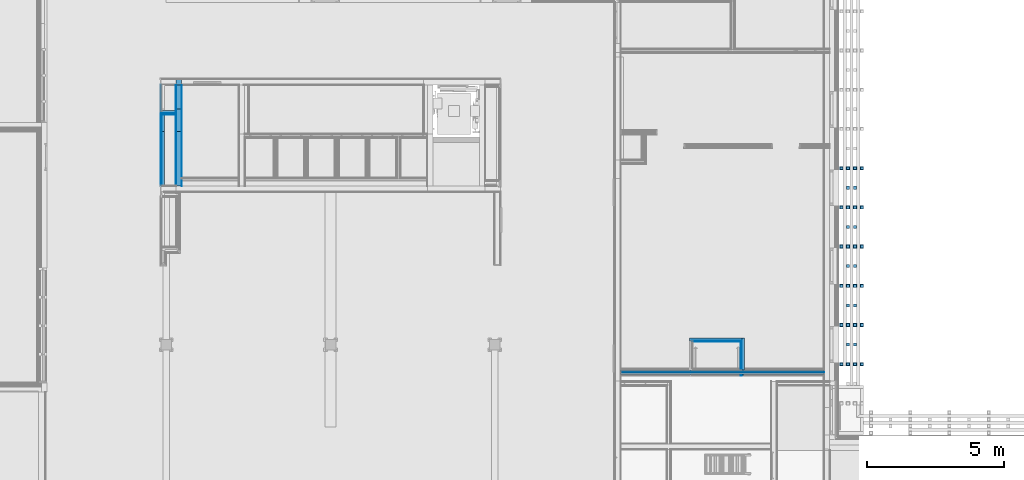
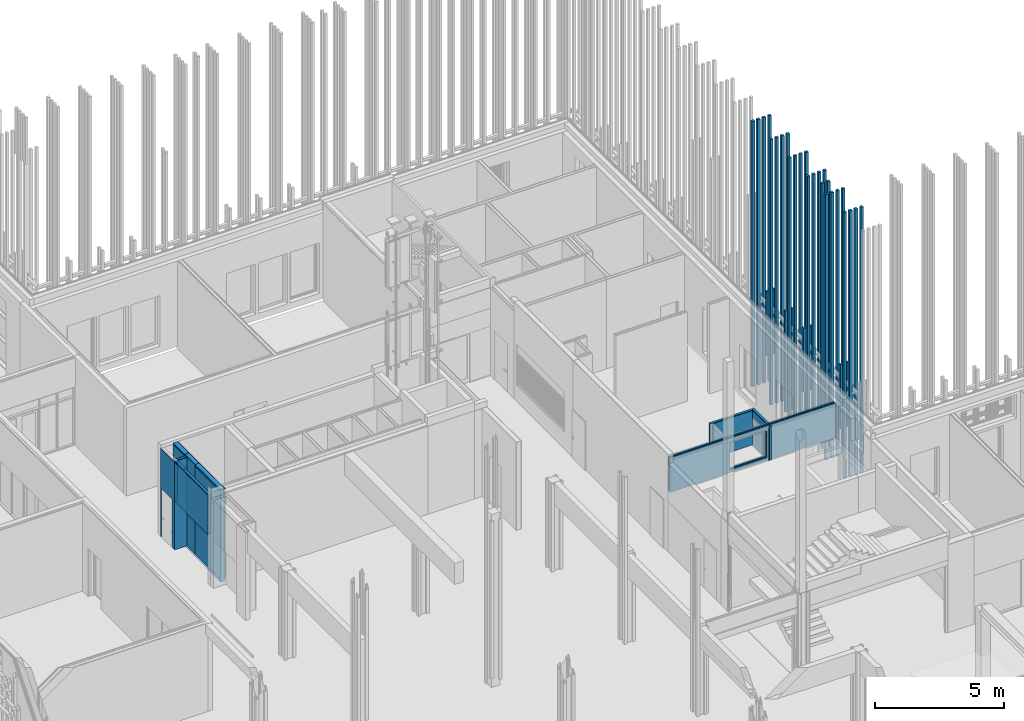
# One storey, part 181 of 260: 29 building element parts, 11 discrete accessories, 2 openings, 9 elements without a shape of their own.
"""IFC2X3 building model written with IfcOpenShell, lengths in millimetres."""

from ifc_helpers import new_model, entity, si_unit, converted_unit, derived_unit, money_unit, direction, frame, origin_with_axes, place, context, subcontext, project, spatial, faceted_brep, material, material_list, type_object, element, aggregate, save


model = new_model("IFC2X3")

# Units and contexts
model_context = context("Model", 3, precision=0.01, world=origin_with_axes(), true_north=direction((0.0, 1.0)))
body_context = subcontext(model_context, "Body", "Model", "MODEL_VIEW")
ifc_project = project(units=[si_unit("LENGTHUNIT", "METRE", prefix="MILLI"), si_unit("AREAUNIT", "SQUARE_METRE"), si_unit("VOLUMEUNIT", "CUBIC_METRE"), converted_unit("PLANEANGLEUNIT", "DEGREE", entity("IfcPlaneAngleMeasure", 0.0174532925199), si_unit("PLANEANGLEUNIT", "RADIAN"), dimensions=[0, 0, 0, 0, 0, 0, 0]), money_unit("EUR"), converted_unit("TIMEUNIT", "Year", entity("IfcTimeMeasure", 31556926.0), si_unit("TIMEUNIT", "SECOND"), dimensions=[0, 0, 1, 0, 0, 0, 0]), si_unit("MASSUNIT", "GRAM", prefix="KILO"), si_unit("THERMODYNAMICTEMPERATUREUNIT", "DEGREE_CELSIUS"), si_unit("LUMINOUSINTENSITYUNIT", "LUMEN"), si_unit("ENERGYUNIT", "JOULE", prefix="MEGA"), derived_unit("THERMALCONDUCTANCEUNIT", [(si_unit("POWERUNIT", "WATT"), 1), (si_unit("LENGTHUNIT", "METRE"), -1), (si_unit("THERMODYNAMICTEMPERATUREUNIT", "KELVIN"), -1)]), derived_unit("SPECIFICHEATCAPACITYUNIT", [(si_unit("ENERGYUNIT", "JOULE"), 1), (si_unit("MASSUNIT", "GRAM", prefix="KILO"), -1), (si_unit("THERMODYNAMICTEMPERATUREUNIT", "KELVIN"), -1)]), derived_unit("MASSDENSITYUNIT", [(si_unit("MASSUNIT", "GRAM", prefix="KILO"), 1), (si_unit("VOLUMEUNIT", "CUBIC_METRE"), -1)])], contexts=[model_context])

# Site, building, storey
site_placement = place(None, origin_with_axes())
site = spatial("IfcSite", under=ifc_project, at=site_placement, Name="Kolde pst 67a", CompositionType="ELEMENT")
building_placement = place(site_placement, origin_with_axes())
building = spatial("IfcBuilding", under=site, at=building_placement, Name="Riigigümnaasium", CompositionType="ELEMENT")
storey_placement = place(building_placement, origin_with_axes())
storey = spatial("IfcBuildingStorey", under=building, at=storey_placement, Name="1. korrus", CompositionType="ELEMENT", Elevation=0.0)

# Discrete accessories
ifc_material_1 = material(Name="_VÄLISVIIMISTLUS - sõrmjätkatud puitprussid 120x115mm, liitekohad vähemärgatavad, Platowood sõrmjätkatud kuusk või samaväärne; eeltöödeldud tuletõkkevõõbaga, tuletundlikkus B-s1, d0, Woodsafe Exterior WFX™ või samaväärne; kinnitused vastavalt EK osale")
ifc_material_list_1 = material_list([ifc_material_1, ifc_material_1, ifc_material_1, ifc_material_1])
discrete_accessory_type_1 = type_object("IfcDiscreteAccessoryType", Name="120 4-ne vertikaalne 870 x 115")
for number, where, z_axis, x_axis in (
    (1, (60791.9943499, 46517.4998416, 280.0), (0.0, 0.0, 1.0), (-0.999999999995, -3.13999128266e-06, 0.0)),
    (2, (60791.9943499, 45087.4998416, 280.0), (0.0, 0.0, 1.0), (-0.999999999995, -3.13999128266e-06, 0.0)),
    (3, (60791.9943499, 43657.4998416, 280.0), (0.0, 0.0, 1.0), (-0.999999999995, -3.13999128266e-06, 0.0)),
    (4, (60791.9943499, 42227.4998416, 280.0), (0.0, 0.0, 1.0), (-0.999999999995, -3.13999128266e-06, 0.0)),
    (5, (60791.9943499, 40797.4998416, 280.0), (0.0, 0.0, 1.0), (-0.999999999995, -3.13999128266e-06, 0.0)),
    (6, (60791.9943499, 39367.4998416, 280.0), (0.0, 0.0, 1.0), (-0.999999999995, -3.13999128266e-06, 0.0)),
):
    element("IfcDiscreteAccessory", number, at=place(storey_placement, frame(where, z_axis=z_axis, x_axis=x_axis)), inside=storey, type_object=discrete_accessory_type_1, material=ifc_material_list_1, Name="Päikesevarjestus", context=body_context, shape_type="Brep", body=[
        faceted_brep([(-133.0, -70.0, 0.0), (-13.0, -70.0, 0.0), (-13.0, -70.0, 12600.0), (-133.0, -70.0, 12600.0), (-133.0, 45.0, 0.0), (-13.0, 45.0, 0.0), (-13.0, 45.0, 12600.0), (-133.0, 45.0, 12600.0)], [[[0, 1, 2, 3]], [[0, 4, 5, 1]], [[1, 5, 6, 2]], [[3, 2, 6, 7]], [[4, 0, 3, 7]], [[5, 4, 7, 6]]]),
        faceted_brep([(-383.0, -70.0, 0.0), (-263.0, -70.0, 0.0), (-263.0, -70.0, 12600.0), (-383.0, -70.0, 12600.0), (-383.0, 45.0, 0.0), (-263.0, 45.0, 0.0), (-263.0, 45.0, 12600.0), (-383.0, 45.0, 12600.0)], [[[0, 1, 2, 3]], [[0, 4, 5, 1]], [[1, 5, 6, 2]], [[3, 2, 6, 7]], [[4, 0, 3, 7]], [[5, 4, 7, 6]]]),
        faceted_brep([(-633.0, -70.0, 0.0), (-513.0, -70.0, 0.0), (-513.0, -70.0, 12600.0), (-633.0, -70.0, 12600.0), (-633.0, 45.0, 0.0), (-513.0, 45.0, 0.0), (-513.0, 45.0, 12600.0), (-633.0, 45.0, 12600.0)], [[[0, 1, 2, 3]], [[0, 4, 5, 1]], [[1, 5, 6, 2]], [[3, 2, 6, 7]], [[4, 0, 3, 7]], [[5, 4, 7, 6]]]),
        faceted_brep([(-883.0, -70.0, 0.0), (-763.0, -70.0, 0.0), (-763.0, -70.0, 12600.0), (-883.0, -70.0, 12600.0), (-883.0, 45.0, 0.0), (-763.0, 45.0, 0.0), (-763.0, 45.0, 12600.0), (-883.0, 45.0, 12600.0)], [[[0, 1, 2, 3]], [[0, 4, 5, 1]], [[1, 5, 6, 2]], [[3, 2, 6, 7]], [[4, 0, 3, 7]], [[5, 4, 7, 6]]]),
    ])
ifc_material_list_2 = material_list([ifc_material_1, ifc_material_1])
discrete_accessory_type_2 = type_object("IfcDiscreteAccessoryType", Name="1+paiksekaitse 3 370 x 115")
discrete_accessory_1_placement = place(storey_placement, frame((61771.9937454, 40155.0015421, 2100.00014213), z_axis=(0.0, 0.0, 1.0), x_axis=(-1.0, 0.0, 0.0)))
element("IfcDiscreteAccessory", 7, at=discrete_accessory_1_placement, inside=storey, type_object=discrete_accessory_type_2, material=ifc_material_list_2, Name="Päikesevarjestus", context=body_context, shape_type="Brep", body=[
    faceted_brep([(467.0, 117.5, 0.0), (347.0, 117.5, 0.0), (347.0, 117.5, 3050.0), (467.0, 117.5, 3050.0), (467.0, 2.5, 0.0), (347.0, 2.5, 0.0), (347.0, 2.5, 3050.0), (467.0, 2.5, 3050.0)], [[[0, 1, 2, 3]], [[0, 4, 5, 1]], [[1, 5, 6, 2]], [[3, 2, 6, 7]], [[4, 0, 3, 7]], [[5, 4, 7, 6]]]),
    faceted_brep([(717.0, 117.5, 0.0), (597.0, 117.5, 0.0), (597.0, 117.5, 3050.0), (717.0, 117.5, 3050.0), (717.0, 2.5, 0.0), (597.0, 2.5, 0.0), (597.0, 2.5, 3050.0), (717.0, 2.5, 3050.0)], [[[0, 1, 2, 3]], [[0, 4, 5, 1]], [[1, 5, 6, 2]], [[3, 2, 6, 7]], [[4, 0, 3, 7]], [[5, 4, 7, 6]]]),
])
discrete_accessory_2_placement = place(storey_placement, frame((61772.0158251, 41585.0017885, 280.0), z_axis=(0.0, 0.0, 1.0), x_axis=(-1.0, 0.0, 0.0)))
element("IfcDiscreteAccessory", 8, at=discrete_accessory_2_placement, inside=storey, type_object=discrete_accessory_type_2, material=ifc_material_list_2, Name="Päikesevarjestus", context=body_context, shape_type="Brep", body=[
    faceted_brep([(467.0, 117.5, 0.0), (347.0, 117.5, 0.0), (347.0, 117.5, 12600.0), (467.0, 117.5, 12600.0), (467.0, 2.5, 0.0), (347.0, 2.5, 0.0), (347.0, 2.5, 12600.0), (467.0, 2.5, 12600.0)], [[[0, 1, 2, 3]], [[0, 4, 5, 1]], [[1, 5, 6, 2]], [[3, 2, 6, 7]], [[4, 0, 3, 7]], [[5, 4, 7, 6]]]),
    faceted_brep([(717.0, 117.5, 0.0), (597.0, 117.5, 0.0), (597.0, 117.5, 12600.0), (717.0, 117.5, 12600.0), (717.0, 2.5, 0.0), (597.0, 2.5, 0.0), (597.0, 2.5, 12600.0), (717.0, 2.5, 12600.0)], [[[0, 1, 2, 3]], [[0, 4, 5, 1]], [[1, 5, 6, 2]], [[3, 2, 6, 7]], [[4, 0, 3, 7]], [[5, 4, 7, 6]]]),
])
discrete_accessory_3_placement = place(storey_placement, frame((61771.9937454, 44445.0013897, 280.0), z_axis=(0.0, 0.0, 1.0), x_axis=(-1.0, 0.0, 0.0)))
element("IfcDiscreteAccessory", 9, at=discrete_accessory_3_placement, inside=storey, type_object=discrete_accessory_type_2, material=ifc_material_list_2, Name="Päikesevarjestus", context=body_context, shape_type="Brep", body=[
    faceted_brep([(467.0, 117.5, 0.0), (347.0, 117.5, 0.0), (347.0, 117.5, 4820.0), (467.0, 117.5, 4820.0), (467.0, 2.5, 0.0), (347.0, 2.5, 0.0), (347.0, 2.5, 4820.0), (467.0, 2.5, 4820.0)], [[[0, 1, 2, 3]], [[0, 4, 5, 1]], [[1, 5, 6, 2]], [[3, 2, 6, 7]], [[4, 0, 3, 7]], [[5, 4, 7, 6]]]),
    faceted_brep([(717.0, 117.5, 0.0), (597.0, 117.5, 0.0), (597.0, 117.5, 4820.0), (717.0, 117.5, 4820.0), (717.0, 2.5, 0.0), (597.0, 2.5, 0.0), (597.0, 2.5, 4820.0), (717.0, 2.5, 4820.0)], [[[0, 1, 2, 3]], [[0, 4, 5, 1]], [[1, 5, 6, 2]], [[3, 2, 6, 7]], [[4, 0, 3, 7]], [[5, 4, 7, 6]]]),
])
for number, where, z_axis, x_axis in (
    (10, (61772.0158251, 45875.0017885, 2100.00014213), (0.0, 0.0, 1.0), (-1.0, 0.0, 0.0)),
    (11, (61771.9937454, 43015.0013897, 2100.00014213), (0.0, 0.0, 1.0), (-1.0, 0.0, 0.0)),
):
    element("IfcDiscreteAccessory", number, at=place(storey_placement, frame(where, z_axis=z_axis, x_axis=x_axis)), inside=storey, type_object=discrete_accessory_type_2, material=ifc_material_list_2, Name="Päikesevarjestus", context=body_context, shape_type="Brep", body=[
        faceted_brep([(467.0, 117.5, 0.0), (347.0, 117.5, 0.0), (347.0, 117.5, 3050.0), (467.0, 117.5, 3050.0), (467.0, 2.5, 0.0), (347.0, 2.5, 0.0), (347.0, 2.5, 3050.0), (467.0, 2.5, 3050.0)], [[[0, 1, 2, 3]], [[0, 4, 5, 1]], [[1, 5, 6, 2]], [[3, 2, 6, 7]], [[4, 0, 3, 7]], [[5, 4, 7, 6]]]),
        faceted_brep([(717.0, 117.5, 0.0), (597.0, 117.5, 0.0), (597.0, 117.5, 3050.0), (717.0, 117.5, 3050.0), (717.0, 2.5, 0.0), (597.0, 2.5, 0.0), (597.0, 2.5, 3050.0), (717.0, 2.5, 3050.0)], [[[0, 1, 2, 3]], [[0, 4, 5, 1]], [[1, 5, 6, 2]], [[3, 2, 6, 7]], [[4, 0, 3, 7]], [[5, 4, 7, 6]]]),
    ])

# Wall, building element parts
wall_type_1 = type_object("IfcWallType", Name="SS-MK-10/2_šahti sein+plaat 140", PredefinedType="NOTDEFINED")
wall_1_placement = place(storey_placement, frame((36804.99923, 48484.9999598, 0.0), z_axis=(0.0, 0.0, 1.0), x_axis=(-1.0, 0.0, 0.0)))
wall_1 = element("IfcWall", 12, at=wall_1_placement, inside=storey, type_object=wall_type_1, Name="Sisesein")
ifc_material_2 = material(Name="_VIIMISTLUSKIHT - viimistlus vastavalt SA osale")
building_element_part_1_placement = place(wall_1_placement, origin_with_axes())
building_element_part_1 = element("IfcBuildingElementPart", 13, at=building_element_part_1_placement, material=ifc_material_2, Name="_VIIMISTLUSKIHT - viimistlus vastavalt SA osale", context=body_context, shape_type="Brep", body=[
    faceted_brep([(765.0, -15.0, 4170.0), (750.0, -15.0, 4170.0), (749.999999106, -15.0, 2300.0), (737.5, -15.0, 2300.0), (625.0, -15.0, 2300.0), (625.0, -15.0, 4191.97493709), (215.0, -15.0, 4191.97493709), (215.0, -15.0, 0.0), (765.0, -15.0, 0.0), (750.0, 0.0, 4170.0), (765.0, 0.0, 4170.0), (749.999999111, 0.0, 2300.0), (625.0, 0.0, 2300.0), (625.0, 0.0, 4191.97493709), (215.0, 0.0, 4191.97493709), (215.0, 0.0, 0.0), (765.0, 0.0, 0.0)], [[[0, 1, 2, 3, 4, 5, 6, 7, 8]], [[9, 1, 0, 10]], [[1, 9, 11, 2]], [[4, 3, 2, 11, 12]], [[12, 13, 5, 4]], [[6, 5, 13, 14]], [[14, 15, 7, 6]], [[7, 15, 16, 8]], [[10, 0, 8, 16]], [[9, 10, 16, 15, 14, 13, 12, 11]]]),
])
ifc_material_3 = material(Name="_PLAATMATERJAL - kipsplaat veekindel")
building_element_part_2_placement = place(wall_1_placement, origin_with_axes())
building_element_part_2 = element("IfcBuildingElementPart", 14, at=building_element_part_2_placement, material=ifc_material_3, Name="_PLAATMATERJAL - kipsplaat veekindel", context=body_context, shape_type="Brep", body=[
    faceted_brep([(749.999999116, -27.5, 4191.97493709), (737.5, -27.5, 4191.97493709), (737.5, -27.5, 2300.0), (725.0, -27.5, 2300.0), (625.0, -27.5, 2300.0), (625.0, -27.5, 4191.97493709), (200.0, -27.5, 4191.97493709), (200.0, -27.5, 0.0), (750.0, -27.5, 0.0), (749.999999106, -15.0, 4191.97493709), (737.5, -15.0, 4191.97493709), (737.5, -15.0, 2300.0), (625.0, -15.0, 2300.0), (625.0, -15.0, 4191.97493709), (200.0, -15.0, 4191.97493709), (200.0, -15.0, 0.0), (750.0, -15.0, 0.0)], [[[0, 1, 2, 3, 4, 5, 6, 7, 8]], [[9, 10, 1, 0]], [[11, 2, 1, 10]], [[4, 3, 2, 11, 12]], [[12, 13, 5, 4]], [[6, 5, 13, 14]], [[14, 15, 7, 6]], [[15, 16, 8, 7]], [[16, 9, 0, 8]], [[12, 11, 10, 9, 16, 15, 14, 13]]]),
])
building_element_part_3_placement = place(wall_1_placement, origin_with_axes())
building_element_part_3 = element("IfcBuildingElementPart", 15, at=building_element_part_3_placement, material=ifc_material_3, Name="_PLAATMATERJAL - kipsplaat veekindel", context=body_context, shape_type="Brep", body=[
    faceted_brep([(724.999999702, -40.0, 4191.97493709), (724.999999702, -40.0, 2300.0), (625.0, -40.0, 2300.0), (625.0, -40.0, 4191.97493709), (200.0, -40.0, 4191.97493709), (200.0, -40.0, 0.0), (737.5, -40.0, 0.0), (737.5, -40.0, 4191.97493709), (724.999999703, -27.5, 2300.0), (724.999999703, -27.5, 4191.97493709), (625.0, -27.5, 2300.0), (625.0, -27.5, 4191.97493709), (200.0, -27.5, 4191.97493709), (200.0, -27.5, 0.0), (737.5, -27.5, 0.0), (737.5, -27.5, 4191.97493709)], [[[0, 1, 2, 3, 4, 5, 6, 7]], [[8, 1, 0, 9]], [[10, 2, 1, 8]], [[10, 11, 3, 2]], [[4, 3, 11, 12]], [[12, 13, 5, 4]], [[13, 14, 6, 5]], [[14, 15, 7, 6]], [[15, 9, 0, 7]], [[10, 8, 9, 15, 14, 13, 12, 11]]]),
])
ifc_material_4 = material(Name="_KARKASS - metallkarkass CW 100/50/06 ja UW 100/40/06, samm 600, vahel mineraalvill, helineeldetegur αw = 1.0,  ISOVER ACOUSTIC 100mm või samaväärne")
building_element_part_4_placement = place(wall_1_placement, origin_with_axes())
building_element_part_4 = element("IfcBuildingElementPart", 16, at=building_element_part_4_placement, material=ifc_material_4, Name="_KARKASS - metallkarkass CW 100/50/06 ja UW 100/40/06, samm 600, vahel mineraalvill, helineeldetegur αw = 1.0,  ISOVER ACOUSTIC 100mm või samaväärne", context=body_context, shape_type="Brep", body=[
    faceted_brep([(725.0, -140.0, 0.0), (724.99999973, -140.0, 4191.97493709), (200.0, -140.0, 4191.97493709), (200.0, -140.0, 0.0), (725.0, -40.0, 0.0), (724.999999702, -40.0, 4191.97493709), (200.0, -40.0, 4191.97493709), (200.0, -40.0, 0.0)], [[[0, 1, 2, 3]], [[4, 5, 1, 0]], [[2, 1, 5, 6]], [[6, 7, 3, 2]], [[7, 4, 0, 3]], [[6, 5, 4, 7]]]),
])
aggregate(wall_1, [building_element_part_1, building_element_part_2, building_element_part_3, building_element_part_4])

wall_type_2 = type_object("IfcWallType", Name="SS-RB-20/2_+2 plaat 230", PredefinedType="NOTDEFINED")
wall_2_placement = place(storey_placement, frame((36804.99923, 48680.0003365, -100.0), z_axis=(0.0, 0.0, 1.0), x_axis=(0.0, 1.0, 0.0)))
wall_2 = element("IfcWall", 17, at=wall_2_placement, inside=storey, type_object=wall_type_2, Name="Sisesein")
building_element_part_5_placement = place(wall_2_placement, origin_with_axes())
building_element_part_5 = element("IfcBuildingElementPart", 18, at=building_element_part_5_placement, material=ifc_material_2, Name="_VIIMISTLUSKIHT - viimistlus vastavalt SA osale", context=body_context, shape_type="Brep", body=[
    faceted_brep([(0.0, 200.0, 100.0), (874.999623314, 199.999999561, 100.0), (874.999623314, 200.0, 4270.0), (0.0, 200.0, 4270.0), (874.999623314, 215.0, 100.0), (0.0, 215.0, 100.0), (874.999623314, 215.0, 4270.0), (0.0, 215.0, 4270.0)], [[[0, 1, 2, 3]], [[4, 1, 0, 5]], [[1, 4, 6, 2]], [[3, 2, 6, 7]], [[5, 0, 3, 7]], [[4, 5, 7, 6]]]),
])
ifc_material_5 = material(Name="_KANDETARIND - monteeritav raudbetoon vastavalt EK osale")
building_element_part_6_placement = place(wall_2_placement, origin_with_axes())
building_element_part_6 = element("IfcBuildingElementPart", 19, at=building_element_part_6_placement, material=ifc_material_5, Name="_KANDETARIND - monteeritav raudbetoon vastavalt EK osale", context=body_context, shape_type="Brep", body=[
    faceted_brep([(889.999663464, 200.0, 4330.0), (889.999663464, 1.03739239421e-09, 4330.0), (889.999623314, 4.47037962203e-07, 20.0), (889.999623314, 199.999999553, 20.0), (0.0, 0.0, 4330.0), (0.0, 200.0, 4330.0), (0.0, 0.0, 0.0), (1089.99962331, 4.47037962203e-07, 0.0), (1089.99962331, 4.47037962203e-07, 20.0), (1089.99962331, 199.999999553, 20.0), (1089.99962331, 199.999999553, 0.0), (0.0, 200.0, 0.0)], [[[0, 1, 2, 3]], [[4, 1, 0, 5]], [[1, 4, 6, 7, 8, 2]], [[3, 2, 8, 9]], [[5, 0, 3, 9, 10, 11]], [[4, 5, 11, 6]], [[6, 11, 10, 7]], [[10, 9, 8, 7]]]),
])
building_element_part_7_placement = place(wall_2_placement, origin_with_axes())
building_element_part_7 = element("IfcBuildingElementPart", 20, at=building_element_part_7_placement, material=ifc_material_2, Name="_VIIMISTLUSKIHT - viimistlus vastavalt SA osale", context=body_context, shape_type="Brep", body=[
    faceted_brep([(0.0, -15.0, 100.0), (874.999623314, -15.0, 100.0), (874.999623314, -15.0, 4330.0), (0.0, -15.0, 4330.0), (874.999623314, 4.38760139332e-07, 100.0), (0.0, 0.0, 100.0), (874.999623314, 1.03739239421e-09, 4330.0), (0.0, 0.0, 4330.0)], [[[0, 1, 2, 3]], [[4, 1, 0, 5]], [[1, 4, 6, 2]], [[3, 2, 6, 7]], [[5, 0, 3, 7]], [[4, 5, 7, 6]]]),
])
aggregate(wall_2, [building_element_part_5, building_element_part_6, building_element_part_7])

wall_3_placement = place(storey_placement, frame((36804.99923, 47865.0003356, -150.0), z_axis=(0.0, 0.0, 1.0), x_axis=(0.0, 1.0, 0.0)))
wall_3 = element("IfcWall", 21, at=wall_3_placement, inside=storey, type_object=wall_type_2, Name="Sisesein")
building_element_part_8_placement = place(wall_3_placement, origin_with_axes())
building_element_part_8 = element("IfcBuildingElementPart", 22, at=building_element_part_8_placement, material=ifc_material_2, Name="_VIIMISTLUSKIHT - viimistlus vastavalt SA osale", context=body_context, shape_type="Brep", body=[
    faceted_brep([(759.999624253, 200.0, 150.0), (815.000000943, 200.0, 150.0), (815.000000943, 200.0, 4390.0), (0.0, 200.0, 4390.0), (0.0, 200.0, 150.0), (634.999624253, 200.0, 150.0), (634.999624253, 200.0, 4341.97493709), (759.999624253, 200.0, 4341.97493709), (815.000000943, 215.0, 150.0), (759.999624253, 215.0, 150.0), (815.000000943, 215.0, 4390.0), (0.0, 215.0, 4390.0), (0.0, 215.0, 150.0), (634.999624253, 215.0, 150.0), (634.999624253, 215.0, 4341.97493709), (759.999624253, 215.0, 4341.97493709)], [[[0, 1, 2, 3, 4, 5, 6, 7]], [[8, 1, 0, 9]], [[1, 8, 10, 2]], [[11, 3, 2, 10]], [[12, 4, 3, 11]], [[13, 5, 4, 12]], [[5, 13, 14, 6]], [[15, 7, 6, 14]], [[9, 0, 7, 15]], [[8, 9, 15, 14, 13, 12, 11, 10]]]),
])
building_element_part_9_placement = place(wall_3_placement, origin_with_axes())
building_element_part_9 = element("IfcBuildingElementPart", 23, at=building_element_part_9_placement, material=ifc_material_5, Name="_KANDETARIND - monteeritav raudbetoon vastavalt EK osale", context=body_context, shape_type="Brep", body=[
    faceted_brep([(815.000000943, 200.0, 4380.0), (815.000000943, 0.0, 4380.0), (815.000000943, 0.0, 0.0), (815.000000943, 200.0, 0.0), (0.0, 0.0, 4380.0), (0.0, 200.0, 4380.0), (0.0, 0.0, 0.0), (0.0, 200.0, 0.0)], [[[0, 1, 2, 3]], [[4, 1, 0, 5]], [[1, 4, 6, 2]], [[7, 3, 2, 6]], [[5, 0, 3, 7]], [[4, 5, 7, 6]]]),
])
building_element_part_10_placement = place(wall_3_placement, origin_with_axes())
building_element_part_10 = element("IfcBuildingElementPart", 24, at=building_element_part_10_placement, material=ifc_material_2, Name="_VIIMISTLUSKIHT - viimistlus vastavalt SA osale", context=body_context, shape_type="Brep", body=[
    faceted_brep([(0.0, -15.0, 150.0), (815.000000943, -15.0, 150.0), (815.000000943, -15.0, 4380.0), (0.0, -15.0, 4380.0), (815.000000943, 0.0, 150.0), (0.0, 0.0, 150.0), (815.000000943, 0.0, 4380.0), (0.0, 0.0, 4380.0)], [[[0, 1, 2, 3]], [[4, 1, 0, 5]], [[1, 4, 6, 2]], [[3, 2, 6, 7]], [[5, 0, 3, 7]], [[4, 5, 7, 6]]]),
])
aggregate(wall_3, [building_element_part_8, building_element_part_9, building_element_part_10])

wall_4_placement = place(storey_placement, frame((36804.99923, 45669.9999598, -150.0), z_axis=(0.0, 0.0, 1.0), x_axis=(0.0, 1.0, 0.0)))
wall_4 = element("IfcWall", 25, at=wall_4_placement, inside=storey, type_object=wall_type_2, Name="Sisesein")
building_element_part_11_placement = place(wall_4_placement, origin_with_axes())
building_element_part_11 = element("IfcBuildingElementPart", 26, at=building_element_part_11_placement, material=ifc_material_2, Name="_VIIMISTLUSKIHT - viimistlus vastavalt SA osale", context=body_context, shape_type="Brep", body=[
    faceted_brep([(200.0, 200.0, 150.0), (2195.00037568, 200.0, 150.0), (2195.00037372, 200.0, 4320.0), (200.0, 200.0, 4320.0), (2195.00037568, 215.0, 150.0), (200.0, 215.0, 150.0), (2195.00037372, 215.0, 4320.0), (200.0, 215.0, 4320.0)], [[[0, 1, 2, 3]], [[4, 1, 0, 5]], [[1, 4, 6, 2]], [[3, 2, 6, 7]], [[5, 0, 3, 7]], [[4, 5, 7, 6]]]),
])
building_element_part_12_placement = place(wall_4_placement, origin_with_axes())
building_element_part_12 = element("IfcBuildingElementPart", 27, at=building_element_part_12_placement, material=ifc_material_5, Name="_KANDETARIND - monteeritav raudbetoon vastavalt EK osale", context=body_context, shape_type="Brep", body=[
    faceted_brep([(2195.00037575, 200.0, 4380.0), (2195.00037575, 0.0, 4380.0), (2195.00037575, 0.0, 0.0), (2195.00037575, 200.0, 0.0), (200.0, 0.0, 4380.0), (200.0, 200.0, 4380.0), (200.0, 0.0, 0.0), (200.0, 200.0, 0.0)], [[[0, 1, 2, 3]], [[4, 1, 0, 5]], [[1, 4, 6, 2]], [[7, 3, 2, 6]], [[5, 0, 3, 7]], [[4, 5, 7, 6]]]),
])
building_element_part_13_placement = place(wall_4_placement, origin_with_axes())
building_element_part_13 = element("IfcBuildingElementPart", 28, at=building_element_part_13_placement, material=ifc_material_2, Name="_VIIMISTLUSKIHT - viimistlus vastavalt SA osale", context=body_context, shape_type="Brep", body=[
    faceted_brep([(200.0, -15.0, 150.0), (404.000036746, -15.0, 150.0), (404.000036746, -15.0, 4380.0), (200.0, -15.0, 4380.0), (404.000036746, 0.0, 150.0), (200.0, 0.0, 150.0), (404.000036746, 0.0, 4380.0), (200.0, 0.0, 4380.0)], [[[0, 1, 2, 3]], [[4, 1, 0, 5]], [[1, 4, 6, 2]], [[3, 2, 6, 7]], [[5, 0, 3, 7]], [[4, 5, 7, 6]]]),
    faceted_brep([(495.000036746, -15.0, 150.0), (2195.00037575, -15.0, 150.0), (2195.00037575, -15.0, 4380.0), (495.000036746, -15.0, 4380.0), (2195.00037575, 0.0, 150.0), (495.000036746, 0.0, 150.0), (2195.00037575, 0.0, 4380.0), (495.000036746, 0.0, 4380.0)], [[[0, 1, 2, 3]], [[4, 1, 0, 5]], [[1, 4, 6, 2]], [[3, 2, 6, 7]], [[5, 0, 3, 7]], [[4, 5, 7, 6]]]),
])
aggregate(wall_4, [building_element_part_11, building_element_part_12, building_element_part_13])

# Wall, opening, building element part
wall_5_placement = place(storey_placement, frame((36039.99923, 49569.9999858, 0.0), z_axis=(0.0, 0.0, 1.0), x_axis=(0.0, -1.0, 0.0)))
wall_5 = element("IfcWall", 29, at=wall_5_placement, inside=storey, type_object=wall_type_1, Name="Sisesein")
opening_1_placement = place(wall_5_placement, frame((485.000025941, 0.0, 0.0), z_axis=(0.0, 0.0, 1.0), x_axis=(1.0, 0.0, 0.0)))
element("IfcOpeningElement", 30, at=opening_1_placement, cuts=wall_5, Name="Siseuks", context=body_context, shape_type="Brep", body=[
    faceted_brep([(400.0, -280.0, 2300.0), (400.0, -280.0, 0.0), (400.0, 140.0, 0.0), (400.0, 140.0, 2300.0), (-400.0, -280.0, 2300.0), (-400.0, -280.0, 0.0), (-400.0, 140.0, 0.0), (-400.0, 140.0, 2300.0)], [[[0, 1, 2, 3]], [[0, 4, 5, 1]], [[1, 5, 6, 2]], [[3, 2, 6, 7]], [[4, 0, 3, 7]], [[5, 4, 7, 6]]]),
])
building_element_part_14_placement = place(wall_5_placement, origin_with_axes())
building_element_part_14 = element("IfcBuildingElementPart", 31, at=building_element_part_14_placement, material=ifc_material_2, Name="_VIIMISTLUSKIHT - viimistlus vastavalt SA osale", context=body_context, shape_type="Brep", body=[
    faceted_brep([(885.000025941, 15.0, 0.0), (885.000025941, 15.0, 2300.0), (85.0000259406, 15.0, 2300.0), (85.0000259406, 15.0, 0.0), (0.0, 15.0, 0.0), (0.0, 15.0, 4170.0), (1070.00002594, 15.0, 4170.0), (1070.00002594, 15.0, 0.0), (885.000025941, 0.0, 0.0), (885.000025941, 0.0, 2300.0), (85.0000259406, 0.0, 2300.0), (85.0000259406, 0.0, 0.0), (0.0, 0.0, 0.0), (0.0, 0.0, 4170.0), (1070.00002594, 0.0, 4170.0), (1070.00002594, 0.0, 0.0)], [[[0, 1, 2, 3, 4, 5, 6, 7]], [[1, 0, 8, 9]], [[2, 1, 9, 10]], [[3, 2, 10, 11]], [[3, 11, 12, 4]], [[5, 4, 12, 13]], [[13, 14, 6, 5]], [[14, 15, 7, 6]], [[8, 0, 7, 15]], [[9, 8, 15, 14, 13, 12, 11, 10]]]),
])
aggregate(wall_5, [building_element_part_14])

# Wall, opening, building element parts
wall_type_3 = type_object("IfcWallType", Name="SS-MK-6,6/2_vill75+värv audika alune sein 60 dB 247", PredefinedType="NOTDEFINED")
wall_6_placement = place(storey_placement, frame((52819.9941096, 38961.8677168, 2600.0), z_axis=(0.0, 0.0, 1.0), x_axis=(1.0, 0.0, 0.0)))
wall_6 = element("IfcWall", 32, at=wall_6_placement, inside=storey, type_object=wall_type_3, Name="Sisesein")
opening_2_placement = place(wall_6_placement, frame((3510.86900625, 0.0, 124.999996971), z_axis=(0.0, 0.0, 1.0), x_axis=(1.0, 0.0, 0.0)))
element("IfcOpeningElement", 33, at=opening_2_placement, cuts=wall_6, Name="Kahepoolne siseuks", context=body_context, shape_type="Brep", body=[
    faceted_brep([(825.0, -247.0, 1320.00000303), (825.0, -247.0, 0.0), (825.0, 494.0, 0.0), (825.0, 494.0, 1320.00000303), (-825.0, -247.0, 1320.00000303), (-825.0, -247.0, 0.0), (-825.0, 494.0, 0.0), (-825.0, 494.0, 1320.00000303)], [[[0, 1, 2, 3]], [[0, 4, 5, 1]], [[1, 5, 6, 2]], [[3, 2, 6, 7]], [[4, 0, 3, 7]], [[5, 4, 7, 6]]]),
])
ifc_material_6 = material(Name="_KARKASS - metallkarkass CW 66/35/06, samm 600, mineraalvill karkassi vahel")
building_element_part_15_placement = place(wall_6_placement, origin_with_axes())
building_element_part_15 = element("IfcBuildingElementPart", 34, at=building_element_part_15_placement, material=ifc_material_6, Name="_KARKASS - metallkarkass CW 66/35/06, samm 600, mineraalvill karkassi vahel", context=body_context, shape_type="Brep", body=[
    faceted_brep([(0.0, 136.0, 1630.0), (0.0, 136.0, 0.0), (7420.00001256, 136.0, 0.0), (7420.00001256, 136.0, 1630.0), (2685.86900625, 136.0, 124.999996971), (2685.86900625, 136.0, 1445.0), (4335.86900625, 136.0, 1445.0), (4335.86900625, 136.0, 124.999996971), (0.0, 202.0, 1630.0), (0.0, 202.0, 0.0), (7420.00001256, 202.0, 0.0), (7420.00001256, 202.0, 1630.0), (2685.86900625, 202.0, 124.999996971), (2685.86900625, 202.0, 1445.0), (4335.86900625, 202.0, 1445.0), (4335.86900625, 202.0, 124.999996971)], [[[0, 1, 2, 3], [4, 5, 6, 7]], [[1, 0, 8, 9]], [[1, 9, 10, 2]], [[11, 3, 2, 10]], [[8, 0, 3, 11]], [[12, 13, 5, 4]], [[13, 14, 6, 5]], [[14, 15, 7, 6]], [[15, 12, 4, 7]], [[9, 8, 11, 10], [12, 15, 14, 13]]]),
])
ifc_material_7 = material(Name="_ÕHKVAHE")
building_element_part_16_placement = place(wall_6_placement, origin_with_axes())
building_element_part_16 = element("IfcBuildingElementPart", 35, at=building_element_part_16_placement, material=ifc_material_7, Name="_ÕHKVAHE", context=body_context, shape_type="Brep", body=[
    faceted_brep([(0.0, 116.0, 1630.0), (0.0, 116.0, 0.0), (7420.00001256, 116.0, 0.0), (7420.00001256, 116.0, 1630.0), (2685.86900625, 116.0, 124.999996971), (2685.86900625, 116.0, 1445.0), (4335.86900625, 116.0, 1445.0), (4335.86900625, 116.0, 124.999996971), (0.0, 136.0, 1630.0), (0.0, 136.0, 0.0), (7420.00001256, 136.0, 0.0), (7420.00001256, 136.0, 1630.0), (2685.86900625, 136.0, 124.999996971), (2685.86900625, 136.0, 1445.0), (4335.86900625, 136.0, 1445.0), (4335.86900625, 136.0, 124.999996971)], [[[0, 1, 2, 3], [4, 5, 6, 7]], [[1, 0, 8, 9]], [[1, 9, 10, 2]], [[11, 3, 2, 10]], [[8, 0, 3, 11]], [[12, 13, 5, 4]], [[13, 14, 6, 5]], [[14, 15, 7, 6]], [[15, 12, 4, 7]], [[9, 8, 11, 10], [12, 15, 14, 13]]]),
])
building_element_part_17_placement = place(wall_6_placement, origin_with_axes())
building_element_part_17 = element("IfcBuildingElementPart", 36, at=building_element_part_17_placement, material=ifc_material_6, Name="_KARKASS - metallkarkass CW 66/35/06, samm 600, mineraalvill karkassi vahel", context=body_context, shape_type="Brep", body=[
    faceted_brep([(0.0, 50.0, 1630.0), (0.0, 50.0, 0.0), (7420.00001256, 50.0, 0.0), (7420.00001256, 50.0, 1630.0), (2685.86900625, 50.0, 124.999996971), (2685.86900625, 50.0, 1445.0), (4335.86900625, 50.0, 1445.0), (4335.86900625, 50.0, 124.999996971), (0.0, 116.0, 1630.0), (0.0, 116.0, 0.0), (7420.00001256, 116.0, 0.0), (7420.00001256, 116.0, 1630.0), (2685.86900625, 116.0, 124.999996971), (2685.86900625, 116.0, 1445.0), (4335.86900625, 116.0, 1445.0), (4335.86900625, 116.0, 124.999996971)], [[[0, 1, 2, 3], [4, 5, 6, 7]], [[1, 0, 8, 9]], [[1, 9, 10, 2]], [[11, 3, 2, 10]], [[8, 0, 3, 11]], [[12, 13, 5, 4]], [[13, 14, 6, 5]], [[14, 15, 7, 6]], [[15, 12, 4, 7]], [[9, 8, 11, 10], [12, 15, 14, 13]]]),
])
aggregate(wall_6, [building_element_part_15, building_element_part_16, building_element_part_17])

# Wall, building element parts
wall_type_4 = type_object("IfcWallType", Name="SS-MK-10/6_šahti sein+krohv 40 dB 135", PredefinedType="NOTDEFINED")
wall_7_placement = place(storey_placement, frame((57207.5085138, 38956.8677168, 2600.0), z_axis=(0.0, 0.0, 1.0), x_axis=(0.0, 1.0, 0.0)))
wall_7 = element("IfcWall", 37, at=wall_7_placement, inside=storey, type_object=wall_type_4, Name="Varisein")
building_element_part_18_placement = place(wall_7_placement, origin_with_axes())
building_element_part_18 = element("IfcBuildingElementPart", 38, at=building_element_part_18_placement, material=ifc_material_2, Name="_VIIMISTLUSKIHT - viimistlus vastavalt SA osale", context=body_context, shape_type="Brep", body=[
    faceted_brep([(9.99999999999, 0.0, 1550.0), (9.99999999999, -10.0, 1550.0), (9.99999999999, -10.0, 0.0), (9.99999999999, 0.0, 0.0), (0.0, -10.0, 1550.0), (0.0, 0.0, 1550.0), (0.0, -10.0, 0.0), (0.0, 0.0, 0.0)], [[[0, 1, 2, 3]], [[4, 1, 0, 5]], [[1, 4, 6, 2]], [[3, 2, 6, 7]], [[5, 0, 3, 7]], [[4, 5, 7, 6]]]),
    faceted_brep([(1252.0, 0.0, 1630.0), (252.0, 0.0, 1630.0), (252.0, -10.0, 1630.0), (1252.0, -10.0, 1630.0), (1252.0, 0.0, 0.0), (252.0, 0.0, 0.0), (252.0, -10.0, 0.0), (1252.0, -10.0, 0.0)], [[[0, 1, 2, 3]], [[4, 5, 1, 0]], [[2, 1, 5, 6]], [[3, 2, 6, 7]], [[3, 7, 4, 0]], [[7, 6, 5, 4]]]),
])
building_element_part_19_placement = place(wall_7_placement, origin_with_axes())
building_element_part_19 = element("IfcBuildingElementPart", 39, at=building_element_part_19_placement, material=ifc_material_3, Name="_PLAATMATERJAL - kipsplaat veekindel", context=body_context, shape_type="Brep", body=[
    faceted_brep([(9.99999999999, -10.0, 1550.0), (9.99999999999, -22.5, 1550.0), (9.99999999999, -22.5, 0.0), (9.99999999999, -10.0, 0.0), (0.0, -22.5, 1550.0), (0.0, -10.0, 1550.0), (0.0, -22.5, 0.0), (0.0, -10.0, 0.0)], [[[0, 1, 2, 3]], [[4, 1, 0, 5]], [[1, 4, 6, 2]], [[3, 2, 6, 7]], [[5, 0, 3, 7]], [[4, 5, 7, 6]]]),
    faceted_brep([(1264.5, -10.0, 1630.0), (252.0, -10.0, 1630.0), (252.0, -22.5, 1630.0), (1264.5, -22.5, 1630.0), (1264.5, -10.0, 0.0), (252.0, -10.0, 0.0), (252.0, -22.5, 0.0), (1264.5, -22.5, 0.0)], [[[0, 1, 2, 3]], [[4, 5, 1, 0]], [[2, 1, 5, 6]], [[3, 2, 6, 7]], [[3, 7, 4, 0]], [[7, 6, 5, 4]]]),
])
building_element_part_20_placement = place(wall_7_placement, origin_with_axes())
building_element_part_20 = element("IfcBuildingElementPart", 40, at=building_element_part_20_placement, material=ifc_material_3, Name="_PLAATMATERJAL - kipsplaat veekindel", context=body_context, shape_type="Brep", body=[
    faceted_brep([(9.99999999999, -22.5, 1550.0), (9.99999999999, -35.0, 1550.0), (9.99999999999, -35.0, 0.0), (9.99999999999, -22.5, 0.0), (0.0, -35.0, 1550.0), (0.0, -22.5, 1550.0), (0.0, -35.0, 0.0), (0.0, -22.5, 0.0)], [[[0, 1, 2, 3]], [[4, 1, 0, 5]], [[1, 4, 6, 2]], [[3, 2, 6, 7]], [[5, 0, 3, 7]], [[4, 5, 7, 6]]]),
    faceted_brep([(1277.0, -22.5, 1630.0), (252.0, -22.5, 1630.0), (252.0, -35.0, 1630.0), (1277.0, -35.0, 1630.0), (1277.0, -22.5, 0.0), (252.0, -22.5, 0.0), (252.0, -35.0, 0.0), (1277.0, -35.0, 0.0)], [[[0, 1, 2, 3]], [[4, 5, 1, 0]], [[2, 1, 5, 6]], [[3, 2, 6, 7]], [[3, 7, 4, 0]], [[7, 6, 5, 4]]]),
])
building_element_part_21_placement = place(wall_7_placement, origin_with_axes())
building_element_part_21 = element("IfcBuildingElementPart", 41, at=building_element_part_21_placement, material=ifc_material_4, Name="_KARKASS - metallkarkass CW 100/50/06 ja UW 100/40/06, samm 600, vahel mineraalvill, helineeldetegur αw = 1.0,  ISOVER ACOUSTIC 100mm või samaväärne", context=body_context, shape_type="Brep", body=[
    faceted_brep([(1377.0, -35.0, 1630.0), (207.0, -35.0, 1630.0), (207.0, -135.0, 1630.0), (1377.0, -135.0, 1630.0), (1377.0, -35.0, 0.0), (207.0, -35.0, 0.0), (207.0, -135.0, 0.0), (1377.0, -135.0, 0.0)], [[[0, 1, 2, 3]], [[4, 5, 1, 0]], [[2, 1, 5, 6]], [[3, 2, 6, 7]], [[3, 7, 4, 0]], [[7, 6, 5, 4]]]),
    faceted_brep([(55.0, -35.0, 1630.0), (0.0, -35.0, 1630.0), (0.0, -135.0, 1630.0), (55.0, -135.0, 1630.0), (55.0, -35.0, 0.0), (0.0, -35.0, 0.0), (0.0, -135.0, 0.0), (55.0, -135.0, 0.0)], [[[0, 1, 2, 3]], [[4, 5, 1, 0]], [[2, 1, 5, 6]], [[3, 2, 6, 7]], [[3, 7, 4, 0]], [[7, 6, 5, 4]]]),
])
aggregate(wall_7, [building_element_part_18, building_element_part_19, building_element_part_20, building_element_part_21])

wall_8_placement = place(storey_placement, frame((57207.5085138, 40198.8677168, 2600.0), z_axis=(0.0, 0.0, 1.0), x_axis=(-1.0, 0.0, 0.0)))
wall_8 = element("IfcWall", 42, at=wall_8_placement, inside=storey, type_object=wall_type_4, Name="Varisein")
building_element_part_22_placement = place(wall_8_placement, origin_with_axes())
building_element_part_22 = element("IfcBuildingElementPart", 43, at=building_element_part_22_placement, material=ifc_material_2, Name="_VIIMISTLUSKIHT - viimistlus vastavalt SA osale", context=body_context, shape_type="Brep", body=[
    faceted_brep([(1760.0, 0.0, 1630.0), (0.0, 0.0, 1630.0), (0.0, -10.0, 1630.0), (1760.0, -10.0, 1630.0), (1760.0, 0.0, 0.0), (0.0, 0.0, 0.0), (0.0, -10.0, 0.0), (1760.0, -10.0, 0.0)], [[[0, 1, 2, 3]], [[4, 5, 1, 0]], [[2, 1, 5, 6]], [[3, 2, 6, 7]], [[3, 7, 4, 0]], [[7, 6, 5, 4]]]),
])
building_element_part_23_placement = place(wall_8_placement, origin_with_axes())
building_element_part_23 = element("IfcBuildingElementPart", 44, at=building_element_part_23_placement, material=ifc_material_3, Name="_PLAATMATERJAL - kipsplaat veekindel", context=body_context, shape_type="Brep", body=[
    faceted_brep([(1772.5, -10.0, 1630.0), (-10.0, -10.0, 1630.0), (-10.0, -22.5, 1630.0), (1772.5, -22.5, 1630.0), (1772.5, -10.0, 0.0), (-10.0, -10.0, 0.0), (-10.0, -22.5, 0.0), (1772.5, -22.5, 0.0)], [[[0, 1, 2, 3]], [[4, 5, 1, 0]], [[2, 1, 5, 6]], [[3, 2, 6, 7]], [[3, 7, 4, 0]], [[7, 6, 5, 4]]]),
])
building_element_part_24_placement = place(wall_8_placement, origin_with_axes())
building_element_part_24 = element("IfcBuildingElementPart", 45, at=building_element_part_24_placement, material=ifc_material_3, Name="_PLAATMATERJAL - kipsplaat veekindel", context=body_context, shape_type="Brep", body=[
    faceted_brep([(1785.0, -22.5, 1630.0), (-22.5, -22.5, 1630.0), (-22.5, -35.0, 1630.0), (1785.0, -35.0, 1630.0), (1785.0, -22.5, 0.0), (-22.5, -22.5, 0.0), (-22.5, -35.0, 0.0), (1785.0, -35.0, 0.0)], [[[0, 1, 2, 3]], [[4, 5, 1, 0]], [[2, 1, 5, 6]], [[3, 2, 6, 7]], [[3, 7, 4, 0]], [[7, 6, 5, 4]]]),
])
building_element_part_25_placement = place(wall_8_placement, origin_with_axes())
building_element_part_25 = element("IfcBuildingElementPart", 46, at=building_element_part_25_placement, material=ifc_material_4, Name="_KARKASS - metallkarkass CW 100/50/06 ja UW 100/40/06, samm 600, vahel mineraalvill, helineeldetegur αw = 1.0,  ISOVER ACOUSTIC 100mm või samaväärne", context=body_context, shape_type="Brep", body=[
    faceted_brep([(1885.0, -35.0, 1630.0), (-35.0, -35.0, 1630.0), (-35.0, -135.0, 1630.0), (1885.0, -135.0, 1630.0), (1885.0, -35.0, 0.0), (-35.0, -35.0, 0.0), (-35.0, -135.0, 0.0), (1885.0, -135.0, 0.0)], [[[0, 1, 2, 3]], [[4, 5, 1, 0]], [[2, 1, 5, 6]], [[3, 2, 6, 7]], [[3, 7, 4, 0]], [[7, 6, 5, 4]]]),
])
aggregate(wall_8, [building_element_part_22, building_element_part_23, building_element_part_24, building_element_part_25])

wall_9_placement = place(storey_placement, frame((36039.99923, 48484.9999598, 2300.0), z_axis=(0.0, 0.0, 1.0), x_axis=(0.0, -1.0, 0.0)))
wall_9 = element("IfcWall", 47, at=wall_9_placement, inside=storey, type_object=wall_type_1, Name="Sisesein")
building_element_part_26_placement = place(wall_9_placement, origin_with_axes())
building_element_part_26 = element("IfcBuildingElementPart", 48, at=building_element_part_26_placement, material=ifc_material_4, Name="_KARKASS - metallkarkass CW 100/50/06 ja UW 100/40/06, samm 600, vahel mineraalvill, helineeldetegur αw = 1.0,  ISOVER ACOUSTIC 100mm või samaväärne", context=body_context, shape_type="Brep", body=[
    faceted_brep([(619.99962628, 40.0000002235, 1891.97493709), (619.99962628, 140.0, 1891.97493709), (-40.0, 140.0, 1891.97493709), (-40.0, 40.000000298, 1891.97493709), (619.99962628, 140.0, 1870.0), (619.99962628, 40.000000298, 1870.0), (2600.0, 140.0, 1870.0), (2600.0, 140.0, 0.0), (-40.0, 140.0, 0.0), (-40.0, 40.000000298, 0.0), (2600.0, 40.0, 0.0), (2600.0, 40.0, 1870.0)], [[[0, 1, 2, 3]], [[4, 1, 0, 5]], [[4, 6, 7, 8, 2, 1]], [[9, 3, 2, 8]], [[5, 0, 3, 9, 10, 11]], [[6, 4, 5, 11]], [[6, 11, 10, 7]], [[10, 9, 8, 7]]]),
])
building_element_part_27_placement = place(wall_9_placement, origin_with_axes())
building_element_part_27 = element("IfcBuildingElementPart", 49, at=building_element_part_27_placement, material=ifc_material_3, Name="_PLAATMATERJAL - kipsplaat veekindel", context=body_context, shape_type="Brep", body=[
    faceted_brep([(619.99962628, 27.5, 1891.97493709), (619.99962628, 40.0, 1891.97493709), (-27.5, 40.0, 1891.97493709), (-27.5, 27.5, 1891.97493709), (619.99962628, 40.0, 1870.0), (619.99962628, 27.5, 1870.0), (2600.0, 40.0, 1870.0), (2600.0, 40.0, 0.0), (-27.5, 40.0, 0.0), (-27.5, 27.5, 0.0), (2600.0, 27.5, 0.0), (2600.0, 27.5, 1870.0)], [[[0, 1, 2, 3]], [[4, 1, 0, 5]], [[4, 6, 7, 8, 2, 1]], [[9, 3, 2, 8]], [[5, 0, 3, 9, 10, 11]], [[6, 4, 5, 11]], [[6, 11, 10, 7]], [[10, 9, 8, 7]]]),
])
building_element_part_28_placement = place(wall_9_placement, origin_with_axes())
building_element_part_28 = element("IfcBuildingElementPart", 50, at=building_element_part_28_placement, material=ifc_material_3, Name="_PLAATMATERJAL - kipsplaat veekindel", context=body_context, shape_type="Brep", body=[
    faceted_brep([(619.99962628, 15.0, 1891.97493709), (619.99962628, 27.5, 1891.97493709), (-15.0, 27.5, 1891.97493709), (-15.0, 15.0000008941, 1891.97493709), (619.99962628, 27.5, 1870.0), (619.99962628, 15.0, 1870.0), (2600.0, 27.5, 1870.0), (2600.0, 27.5, 0.0), (-15.0, 27.5, 0.0), (-15.0, 15.0000008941, 0.0), (2600.0, 15.0, 0.0), (2600.0, 15.0, 1870.0)], [[[0, 1, 2, 3]], [[4, 1, 0, 5]], [[4, 6, 7, 8, 2, 1]], [[9, 3, 2, 8]], [[5, 0, 3, 9, 10, 11]], [[6, 4, 5, 11]], [[6, 11, 10, 7]], [[10, 9, 8, 7]]]),
])
building_element_part_29_placement = place(wall_9_placement, origin_with_axes())
building_element_part_29 = element("IfcBuildingElementPart", 51, at=building_element_part_29_placement, material=ifc_material_2, Name="_VIIMISTLUSKIHT - viimistlus vastavalt SA osale", context=body_context, shape_type="Brep", body=[
    faceted_brep([(0.0, 0.0, 1870.0), (0.0, 15.0, 1870.0), (0.0, 15.0, 0.0), (0.0, 0.0, 0.0), (619.99962628, 15.0, 1870.0), (2600.0, 0.0, 1870.0), (2600.0, 15.0, 1870.0), (2600.0, 15.0, 0.0), (2600.0, 0.0, 0.0)], [[[0, 1, 2, 3]], [[4, 1, 0, 5, 6]], [[4, 6, 7, 2, 1]], [[8, 3, 2, 7]], [[5, 0, 3, 8]], [[6, 5, 8, 7]]]),
])
aggregate(wall_9, [building_element_part_26, building_element_part_27, building_element_part_28, building_element_part_29])

save(model, "model.ifc")
